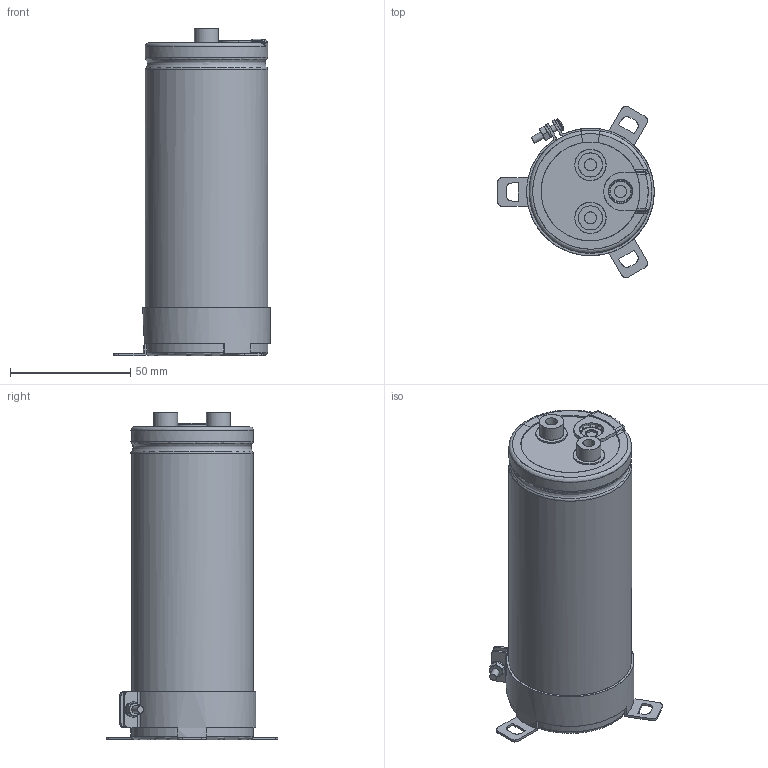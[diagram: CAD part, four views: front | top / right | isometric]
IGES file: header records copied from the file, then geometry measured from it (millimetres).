
Start section: JAMA-IS VERSION  1.0
Bounding box: 65 x 71.22 x 136 mm (x, y, z)
Surface area: 76719.4 mm2 (no closed solid volume)
Topology: 0 solids, 0 shells, 298 faces, 4625 edges, 4595 vertices
Faces by surface type: bspline 298
